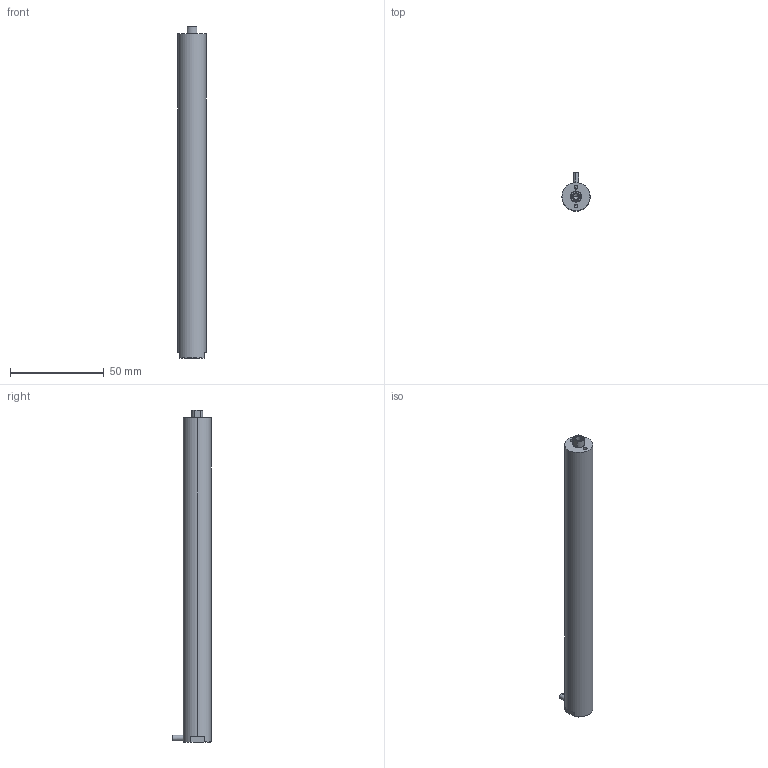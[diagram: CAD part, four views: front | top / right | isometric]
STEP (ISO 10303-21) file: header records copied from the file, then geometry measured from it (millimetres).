
FILE_DESCRIPTION (( 'STEP AP203' ), '1' );
FILE_NAME ('180VS15囀蹟恇.STEP', '2024-11-30T07:48:28', ( 'daohangxitong.com' ), ( 'daohangxitong.com' ), 'SwSTEP 2.0', 'SolidWorks 2016', '' );
FILE_SCHEMA (( 'CONFIG_CONTROL_DESIGN' ));
Products named in the file (1): 180VS15囀蹟恇
Bounding box: 15 x 20.5 x 176.8 mm (x, y, z)
Volume: 30517 mm3; surface area: 8731.7 mm2
Topology: 1 solids, 1 shells, 953 faces, 2736 edges, 1816 vertices
Faces by surface type: bspline 837, cylinder 52, plane 48, cone 16
Entity records: 51447 total; most frequent: CARTESIAN_POINT 33965, ORIENTED_EDGE 5456, EDGE_CURVE 2728, B_SPLINE_CURVE_WITH_KNOTS 2564, VERTEX_POINT 1816, EDGE_LOOP 992, FACE_OUTER_BOUND 953, ADVANCED_FACE 953
